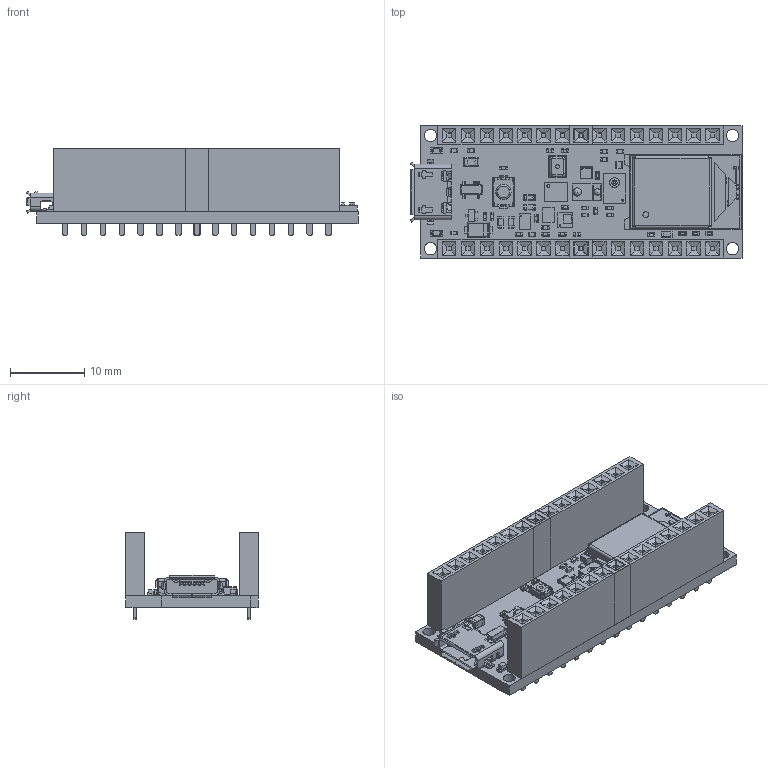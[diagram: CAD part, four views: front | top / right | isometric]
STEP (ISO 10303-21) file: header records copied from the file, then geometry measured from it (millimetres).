
FILE_DESCRIPTION(('Open CASCADE Model'),'2;1');
FILE_NAME('Open CASCADE Shape Model','2025-09-26T03:41:34',('Author'),( 'Open CASCADE'),'Open CASCADE STEP processor 7.5','Open CASCADE 7.5' ,'Unknown');
FILE_SCHEMA(('AUTOMOTIVE_DESIGN { 1 0 10303 214 1 1 1 1 }'));
Length unit declared in the file: millimetre
Products named in the file (103): PCB; Board; Open CASCADE STEP translator 7.5 1.1.1; R2; RES-0402; R1; C2; CAP-0402; J1; ZX62-AB-5PA(31); R12; R11; R7; C13; U2; 624229184; Open CASCADE STEP translator 6.8 38.1; Body; Open CASCADE STEP translator 6.8 38.2.1; Pin_Shape; R9; R14; PB1; PTS820J20KSMTRLFS; U8; HS3000; HS300substrate; HS300shield; U7; IC_Bosch_Sensortec_BMM150_eec; body; pins; logo; logo2; U5; APDS-99602; U3; MP34DT06J; R15; R13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
Assembly tree (157 placements, depth 6):
  PCB
    Board
      Open CASCADE STEP translator 7.5 1.1.1
    R2
      RES-0402
    R1
      RES-0402
    C2
      CAP-0402
    J1
      ZX62-AB-5PA(31)
    R12
      RES-0402
    R11
      RES-0402
    R7
      RES-0402
    C13
      CAP-0402
    U2
      624229184
        Open CASCADE STEP translator 6.8 38.1
        Body
          Open CASCADE STEP translator 6.8 38.2.1
        Pin_Shape  x14
    R9
      RES-0402
    R14
      RES-0402
    PB1
      PTS820J20KSMTRLFS
    U8
      HS3000
        HS300substrate
        HS300shield
    U7
      IC_Bosch_Sensortec_BMM150_eec
        body
        pins
        logo
        logo2
    U5
      APDS-99602
    U3
      MP34DT06J
    R15
      RES-0402
    R13
      RES-0402
    U9
      LPS22HB
    DL3
      SMLP34RGB
    C16
      CAP-0402
    C15
      CAP-0402
    C14
      CAP-0402
    C12
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Bounding box: 44.65 x 17.78 x 11.7 mm (x, y, z)
Volume: 3312.6 mm3; surface area: 6038.6 mm2
Topology: 105 solids, 129 shells, 4849 faces, 11938 edges, 7290 vertices
Faces by surface type: plane 3080, cylinder 1257, sphere 262, bspline 209, torus 29, revolution 8, cone 4
Full cylindrical faces by diameter (mm): 0.07 x2, 0.2 x1, 0.25 x1, 0.388 x1, 0.4 x2, 0.6 x1, 0.8 x2, 1.3 x1, 1.652 x4, 2 x1, 2.05 x1
Entity records: 99211 total; most frequent: CARTESIAN_POINT 17440, ORIENTED_EDGE 13760, DIRECTION 13734, EDGE_CURVE 6883, LINE 5274, VECTOR 5274, VERTEX_POINT 4490, AXIS2_PLACEMENT_3D 4226
